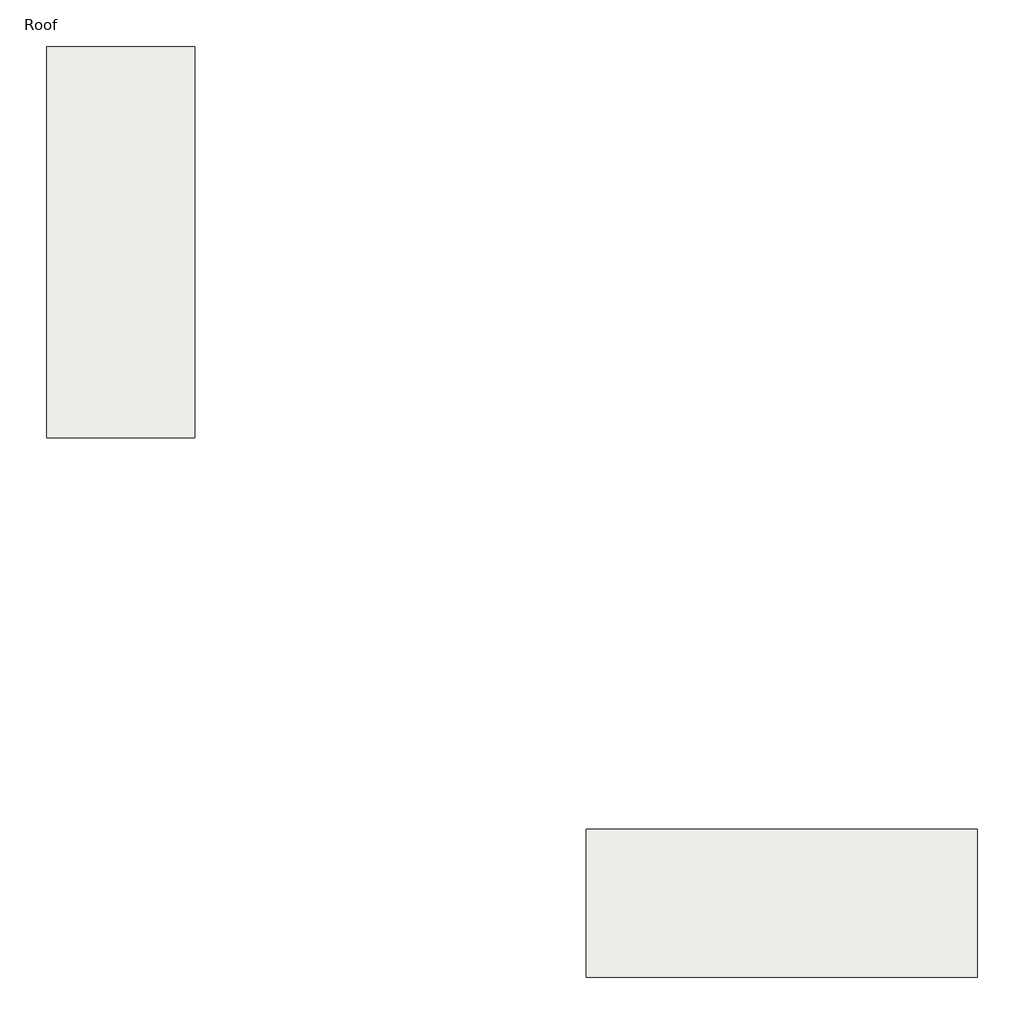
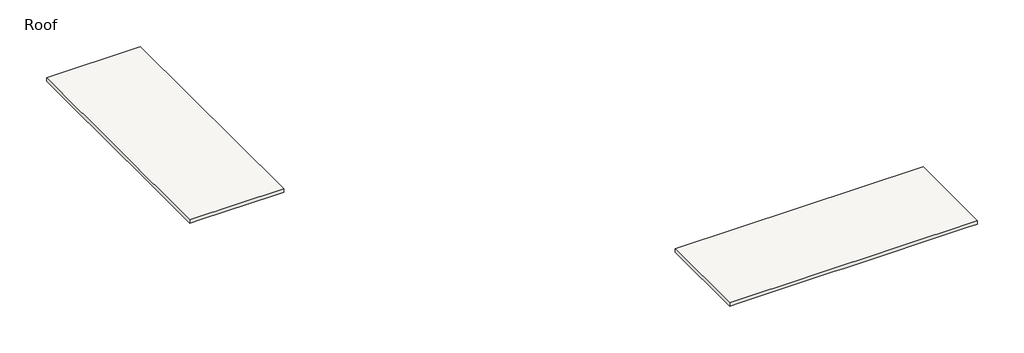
# One storey: 4 slabs.
"""IFC4 building model written with IfcOpenShell, lengths in millimetres."""

from ifc_helpers import new_model, si_unit, origin, place, context, project, spatial, faceted_brep, element, save

model = new_model("IFC4")

# Units and contexts
model_context = context("Model", 3, world=origin())
ifc_project = project(units=[si_unit("LENGTHUNIT", "METRE", prefix="MILLI")], contexts=[model_context])

# Site, building, storey
site = spatial("IfcSite", under=ifc_project)
building = spatial("IfcBuilding", under=site)
storey = spatial("IfcBuildingStorey", under=building, Name="Roof", Elevation=7315.0)

# Slabs
placement = place(None, origin())
element("IfcSlab", 1, ObjectType="160mm Concrete With 50mm Metal Deck", at=placement, inside=storey, context=model_context, shape_type="Brep", body=[
    faceted_brep([(-16304.9035319, 4562.1636035, 7225.0), (-16304.9035319, 3962.1636035, 7225.0), (-16304.9035319, -3362.8363965, 7225.0), (-16304.9035319, -3962.8363965, 7225.0), (-16304.9035319, -9458.8363965, 7225.0), (-16304.9035319, -10058.8363965, 7225.0), (-16904.9035319, -10058.8363965, 7225.0), (-21244.300634, -10058.8363965, 7225.0), (-21844.300634, -10058.8363965, 7225.0), (-21844.300634, -9458.8363965, 7225.0), (-21844.300634, -3962.8363965, 7225.0), (-21844.300634, -3362.8363965, 7225.0), (-21844.300634, 3962.1636035, 7225.0), (-21844.300634, 4562.1636035, 7225.0), (-21244.300634, 4562.1636035, 7225.0), (-16904.9035319, 4562.1636035, 7225.0), (-16304.9035319, 4562.1636035, 7435.0), (-21844.300634, 4562.1636035, 7435.0), (-21844.300634, -10058.8363965, 7435.0), (-16304.9035319, -10058.8363965, 7435.0)], [[[0, 1, 2, 3, 4, 5, 6, 7, 8, 9, 10, 11, 12, 13, 14, 15]], [[16, 17, 18, 19]], [[5, 4, 3, 2, 1, 0, 16, 19]], [[8, 7, 6, 5, 19, 18]], [[13, 12, 11, 10, 9, 8, 18, 17]], [[0, 15, 14, 13, 17, 16]]]),
])
element("IfcSlab", 2, ObjectType="160mm Concrete With 50mm Metal Deck", at=placement, inside=storey, context=model_context, shape_type="Brep", body=[
    faceted_brep([(-16304.9035319, 4562.1636035, 7225.0), (-16304.9035319, 3962.1636035, 7225.0), (-16304.9035319, -3362.8363965, 7225.0), (-16304.9035319, -3962.8363965, 7225.0), (-16304.9035319, -9458.8363965, 7225.0), (-16304.9035319, -10058.8363965, 7225.0), (-16904.9035319, -10058.8363965, 7225.0), (-21244.300634, -10058.8363965, 7225.0), (-21844.300634, -10058.8363965, 7225.0), (-21844.300634, -9458.8363965, 7225.0), (-21844.300634, -3962.8363965, 7225.0), (-21844.300634, -3362.8363965, 7225.0), (-21844.300634, 3962.1636035, 7225.0), (-21844.300634, 4562.1636035, 7225.0), (-21244.300634, 4562.1636035, 7225.0), (-16904.9035319, 4562.1636035, 7225.0), (-16304.9035319, 4562.1636035, 7435.0), (-21844.300634, 4562.1636035, 7435.0), (-21844.300634, -10058.8363965, 7435.0), (-16304.9035319, -10058.8363965, 7435.0)], [[[0, 1, 2, 3, 4, 5, 6, 7, 8, 9, 10, 11, 12, 13, 14, 15]], [[16, 17, 18, 19]], [[5, 4, 3, 2, 1, 0, 16, 19]], [[8, 7, 6, 5, 19, 18]], [[13, 12, 11, 10, 9, 8, 18, 17]], [[0, 15, 14, 13, 17, 16]]]),
])
element("IfcSlab", 3, ObjectType="160mm Concrete With 50mm Metal Deck", at=placement, inside=storey, context=model_context, shape_type="Brep", body=[
    faceted_brep([(12956.0964681, -24698.8363965, 7225.0), (12956.0964681, -25298.8363965, 7225.0), (12956.0964681, -29638.2334986, 7225.0), (12956.0964681, -30238.2334986, 7225.0), (12356.0964681, -30238.2334986, 7225.0), (5031.0964681, -30238.2334986, 7225.0), (4431.0964681, -30238.2334986, 7225.0), (-1064.9035319, -30238.2334986, 7225.0), (-1664.9035319, -30238.2334986, 7225.0), (-1664.9035319, -29638.2334986, 7225.0), (-1664.9035319, -25298.8363965, 7225.0), (-1664.9035319, -24698.8363965, 7225.0), (-1064.9035319, -24698.8363965, 7225.0), (4431.0964681, -24698.8363965, 7225.0), (5031.0964681, -24698.8363965, 7225.0), (12356.0964681, -24698.8363965, 7225.0), (12956.0964681, -24698.8363965, 7435.0), (-1664.9035319, -24698.8363965, 7435.0), (-1664.9035319, -30238.2334986, 7435.0), (12956.0964681, -30238.2334986, 7435.0)], [[[0, 1, 2, 3, 4, 5, 6, 7, 8, 9, 10, 11, 12, 13, 14, 15]], [[16, 17, 18, 19]], [[0, 15, 14, 13, 12, 11, 17, 16]], [[11, 10, 9, 8, 18, 17]], [[8, 7, 6, 5, 4, 3, 19, 18]], [[3, 2, 1, 0, 16, 19]]]),
])
element("IfcSlab", 4, ObjectType="160mm Concrete With 50mm Metal Deck", at=placement, inside=storey, context=model_context, shape_type="Brep", body=[
    faceted_brep([(12956.0964681, -24698.8363965, 7225.0), (12956.0964681, -25298.8363965, 7225.0), (12956.0964681, -29638.2334986, 7225.0), (12956.0964681, -30238.2334986, 7225.0), (12356.0964681, -30238.2334986, 7225.0), (5031.0964681, -30238.2334986, 7225.0), (4431.0964681, -30238.2334986, 7225.0), (-1064.9035319, -30238.2334986, 7225.0), (-1664.9035319, -30238.2334986, 7225.0), (-1664.9035319, -29638.2334986, 7225.0), (-1664.9035319, -25298.8363965, 7225.0), (-1664.9035319, -24698.8363965, 7225.0), (-1064.9035319, -24698.8363965, 7225.0), (4431.0964681, -24698.8363965, 7225.0), (5031.0964681, -24698.8363965, 7225.0), (12356.0964681, -24698.8363965, 7225.0), (12956.0964681, -24698.8363965, 7435.0), (-1664.9035319, -24698.8363965, 7435.0), (-1664.9035319, -30238.2334986, 7435.0), (12956.0964681, -30238.2334986, 7435.0)], [[[0, 1, 2, 3, 4, 5, 6, 7, 8, 9, 10, 11, 12, 13, 14, 15]], [[16, 17, 18, 19]], [[0, 15, 14, 13, 12, 11, 17, 16]], [[11, 10, 9, 8, 18, 17]], [[8, 7, 6, 5, 4, 3, 19, 18]], [[3, 2, 1, 0, 16, 19]]]),
])

save(model, "model.ifc")
